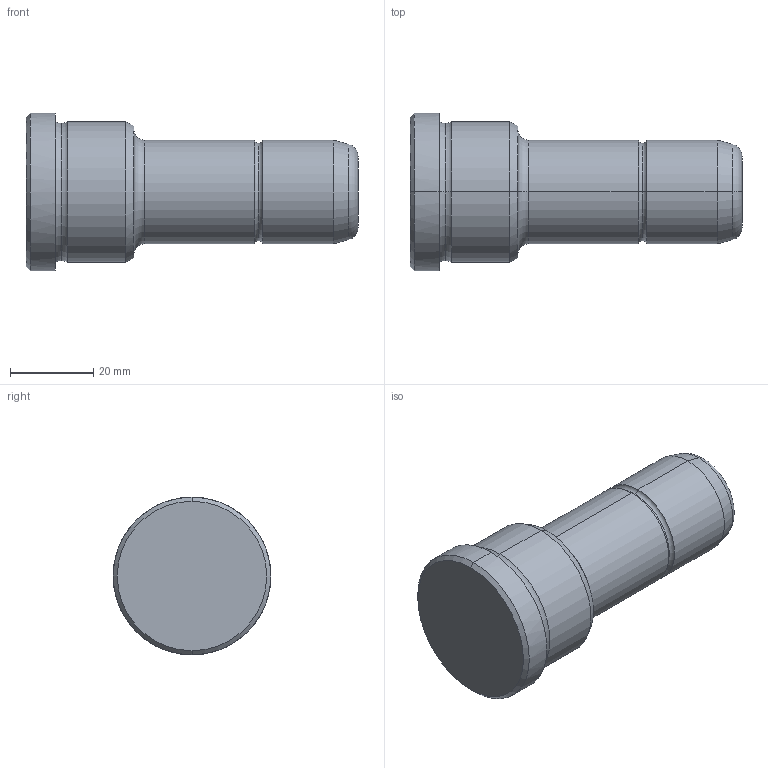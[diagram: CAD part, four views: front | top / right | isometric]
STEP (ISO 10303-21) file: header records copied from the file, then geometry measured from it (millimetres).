
FILE_DESCRIPTION(('CATIA V5 STEP Exchange'),'2;1');
FILE_NAME('C:\Users\Utente\Desktop\IO LAVORO\3D X SITO CF\X SITO\PLASTICA\351\351-25X26X80.stp','2021-08-28T09:23:38+00:00',('none'),('none'),'CATIA Version 5 Release 20 GA (IN-10)','CATIA V5 STEP AP203','none');
FILE_SCHEMA(('CONFIG_CONTROL_DESIGN'));
Length unit declared in the file: millimetre
Products named in the file (1): 351-25X26X80
Bounding box: 80 x 38 x 38 mm (x, y, z)
Volume: 50998.6 mm3; surface area: 9013.3 mm2
Topology: 1 solids, 1 shells, 30 faces, 86 edges, 60 vertices
Faces by surface type: torus 12, cylinder 8, cone 6, plane 4
Entity records: 1112 total; most frequent: CARTESIAN_POINT 289, ORIENTED_EDGE 172, DIRECTION 138, AXIS2_PLACEMENT_3D 95, EDGE_CURVE 86, CIRCLE 64, VERTEX_POINT 60, EDGE_LOOP 32
